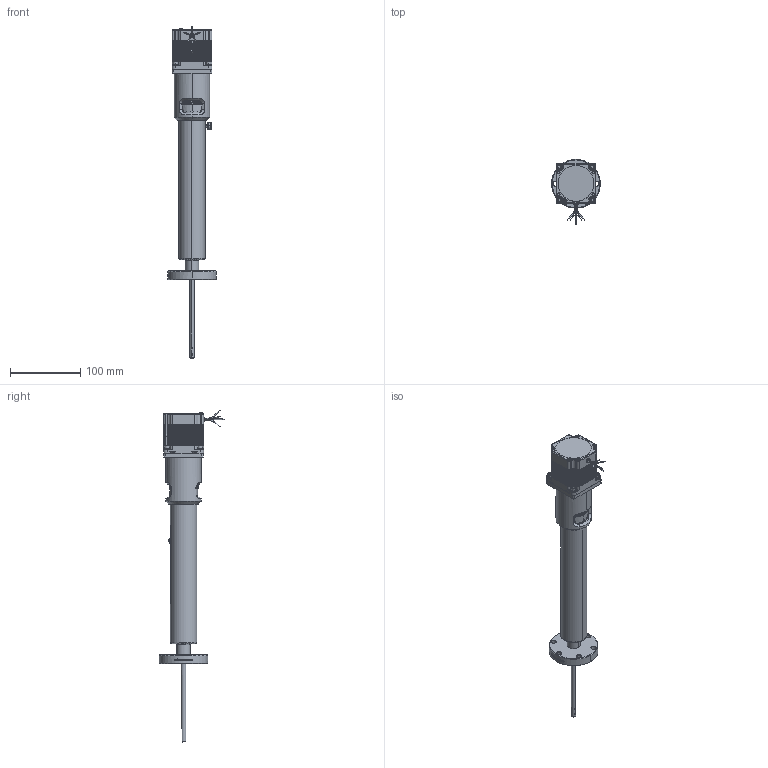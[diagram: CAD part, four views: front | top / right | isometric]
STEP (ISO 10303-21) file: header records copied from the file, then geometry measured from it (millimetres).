
FILE_DESCRIPTION (( 'STEP AP203' ), '1' );
FILE_NAME ('113079.12.stp', '2019-03-07T00:50:57', ( '' ), ( '' ), 'SwSTEP 2.0', 'SolidWorks 2012', '' );
FILE_SCHEMA (( 'CONFIG_CONTROL_DESIGN' ));
Products named in the file (1): 113079.12
Bounding box: 69.34 x 93.28 x 472.94 mm (x, y, z)
Volume: 574103.4 mm3; surface area: 75309.8 mm2
Topology: 1 solids, 6 shells, 3736 faces, 8569 edges, 4911 vertices
Faces by surface type: plane 1759, cone 910, cylinder 864, bspline 203
Entity records: 132780 total; most frequent: CARTESIAN_POINT 50468, ORIENTED_EDGE 17098, DIRECTION 17008, EDGE_CURVE 8549, AXIS2_PLACEMENT_3D 5882, LINE 5244, VECTOR 5244, VERTEX_POINT 4901
